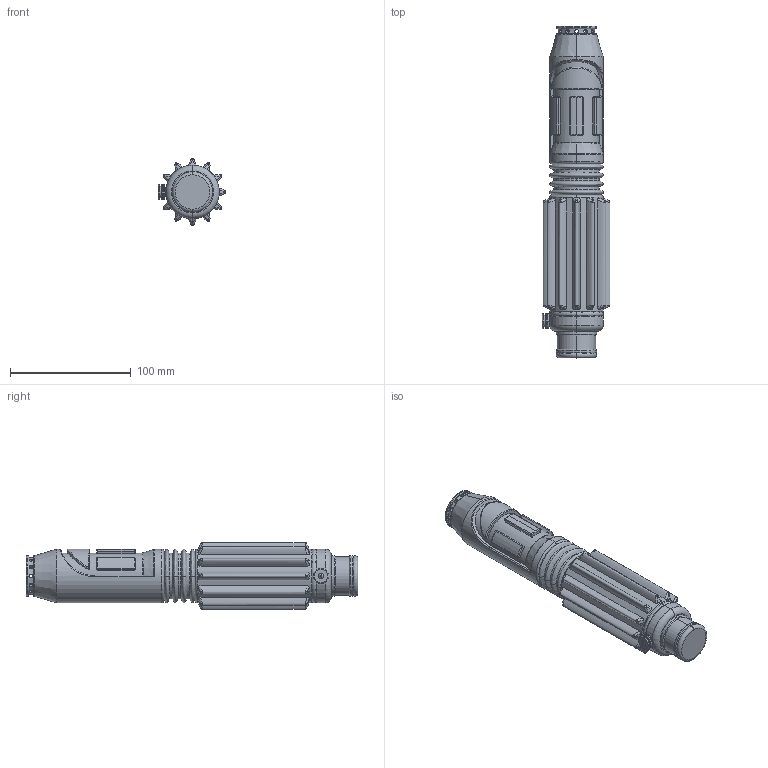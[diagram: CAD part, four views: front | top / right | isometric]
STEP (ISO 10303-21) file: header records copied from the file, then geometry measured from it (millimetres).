
FILE_DESCRIPTION (( 'STEP AP214' ), '1' );
FILE_NAME ('Mace Windu (Lightsaber) (Cue Stick).STEP', '2017-01-19T17:08:24', ( '' ), ( '' ), 'SwSTEP 2.0', 'SolidWorks 2016', '' );
FILE_SCHEMA (( 'AUTOMOTIVE_DESIGN' ));
Length unit declared in the file: inch
Products named in the file (1): Mace Windu (Lightsaber) (Cue Stick)
Bounding box: 56.35 x 275.43 x 55.55 mm (x, y, z)
Volume: 397686.8 mm3; surface area: 54422.4 mm2
Topology: 2 solids, 8 shells, 329 faces, 790 edges, 474 vertices
Faces by surface type: bspline 135, cylinder 79, plane 42, torus 41, cone 32
Entity records: 39036 total; most frequent: CARTESIAN_POINT 29370, ORIENTED_EDGE 1532, DIRECTION 965, EDGE_CURVE 766, VERTEX_POINT 474, AXIS2_PLACEMENT_3D 420, B_SPLINE_CURVE_WITH_KNOTS 416, EDGE_LOOP 374
